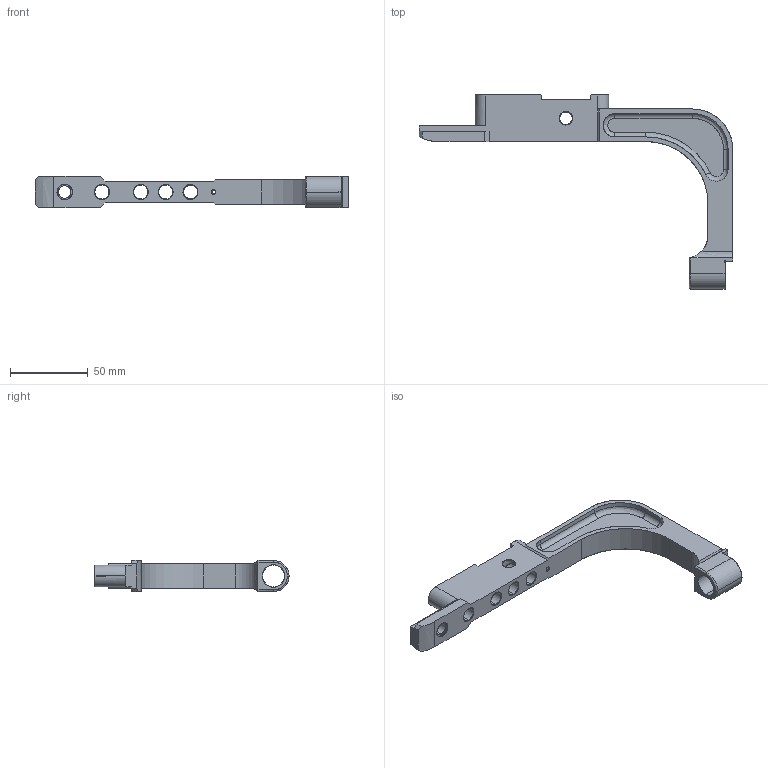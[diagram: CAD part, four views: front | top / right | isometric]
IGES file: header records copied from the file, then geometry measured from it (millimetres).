
Start section: SolidWorks IGES file using analytic representation for surfaces
Global section: file name: C:\Users\e.bondaruk\Desktop\縺 嚦闉鍙酀50.10.1010-00.01.IGS; native system: SolidWorks 2022; preprocessor: SolidWorks 2022; author: e.bondaruk; date: 230210.120427; units: millimetre
Bounding box: 202 x 125 x 20 mm (x, y, z)
Surface area: 28978.8 mm2 (no closed solid volume)
Topology: 0 solids, 0 shells, 137 faces, 1713 edges, 1712 vertices
Faces by surface type: revolution 83, bspline 54
